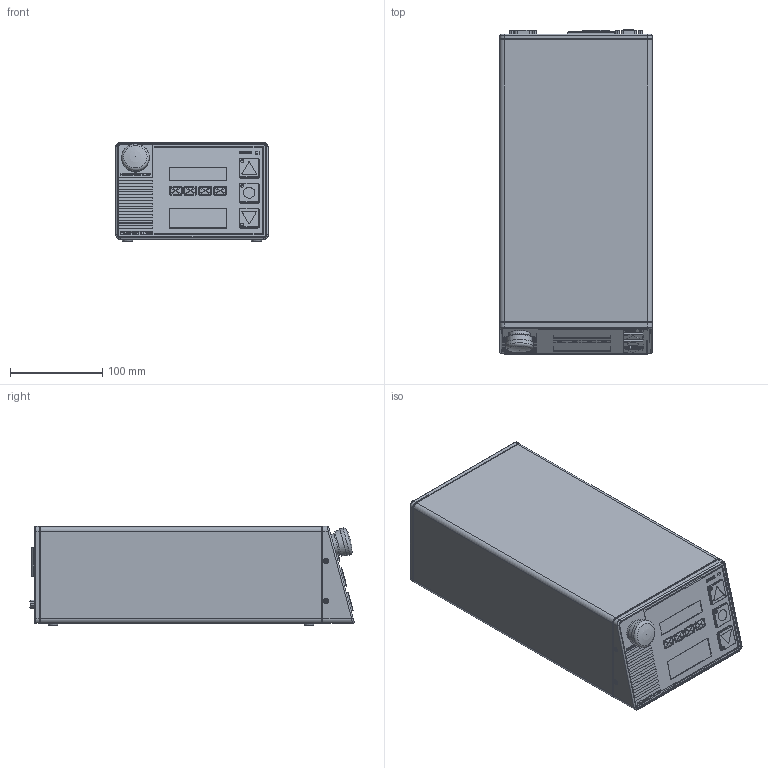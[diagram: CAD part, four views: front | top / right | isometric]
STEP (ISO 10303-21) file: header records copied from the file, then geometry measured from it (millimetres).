
FILE_DESCRIPTION(/* description */ (''),/* implementation_level */ '2;1');
FILE_NAME(/* name */ 'F:\CAD files\Itr\3D MARKETING MODELS\MOTORIZED TEST STANDS\TSTM\DC4040.stp',/* time_stamp */ '2020-05-06T11:56:36-04:00',/* author */ ('dsollitt'),/* organization */ (''),/* preprocessor_version */ 'ST-DEVELOPER v18',/* originating_system */ 'AutoCAD Mechanical',/* authorisation */ '');
FILE_SCHEMA (('AUTOMOTIVE_DESIGN { 1 0 10303 214 3 1 1 }'));
Products named in the file (1): Product
Bounding box: 165 x 350.77 x 107.29 mm (x, y, z)
Volume: 5753442.2 mm3; surface area: 228606 mm2
Topology: 5 solids, 6 shells, 2019 faces, 5249 edges, 3400 vertices
Faces by surface type: plane 1309, cylinder 304, cone 185, bspline 143, torus 69, sphere 9
Full cylindrical faces by diameter (mm): 1 x24, 2.083 x9, 2.261 x6, 3.175 x7, 9.144 x2, 9.576 x2, 11.176 x1, 11.938 x1, 12.192 x1, 13.462 x4, 19.05 x1, 23 x1, 24.6 x1, 27.788 x1, 29.997 x1
Entity records: 69138 total; most frequent: CARTESIAN_POINT 20386, ORIENTED_EDGE 10426, DIRECTION 9468, EDGE_CURVE 5213, LINE 3574, VECTOR 3574, VERTEX_POINT 3400, AXIS2_PLACEMENT_3D 2947
